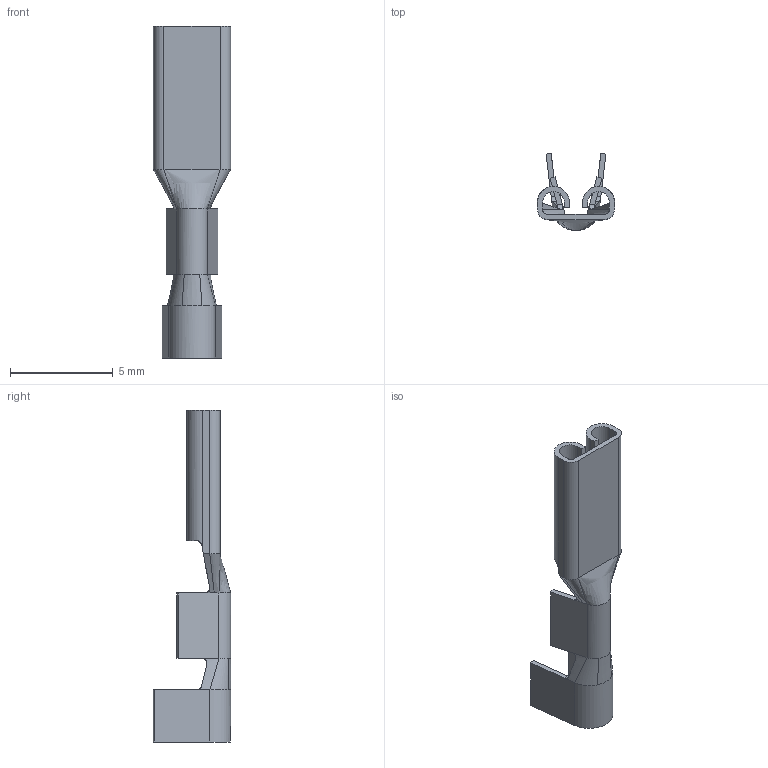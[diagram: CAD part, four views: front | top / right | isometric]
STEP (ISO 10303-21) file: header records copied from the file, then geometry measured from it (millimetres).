
FILE_DESCRIPTION((''),'2;1');
FILE_NAME('C-60118-1','2013-02-26T',('workeradm'),('Tyco Electronics Ltd.'),'PRO/ENGINEER BY PARAMETRIC TECHNOLOGY CORPORATION, 2010430','PRO/ENGINEER BY PARAMETRIC TECHNOLOGY CORPORATION, 2010430','');
FILE_SCHEMA(('AUTOMOTIVE_DESIGN { 1 0 10303 214 1 1 1 1 }'));
Length unit declared in the file: millimetre
Products named in the file (1): C-60118-1
Bounding box: 3.75 x 3.75 x 16.13 mm (x, y, z)
Volume: 27.9 mm3; surface area: 241.8 mm2
Topology: 1 solids, 1 shells, 82 faces, 229 edges, 149 vertices
Faces by surface type: plane 38, bspline 24, cylinder 20
Entity records: 3958 total; most frequent: CARTESIAN_POINT 1711, ORIENTED_EDGE 458, DIRECTION 336, EDGE_CURVE 229, VERTEX_POINT 149, VECTOR 146, LINE 146, AXIS2_PLACEMENT_3D 95
